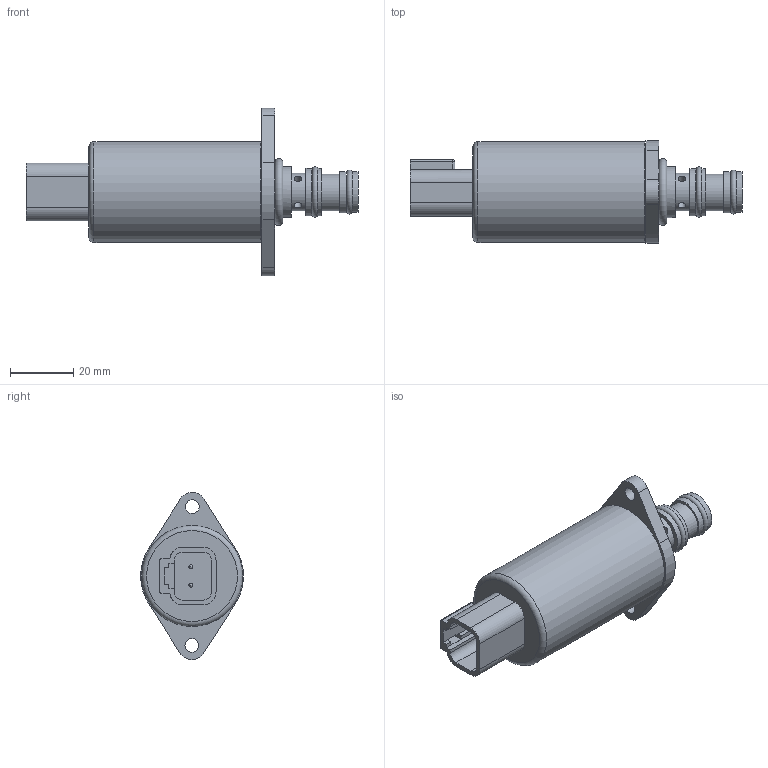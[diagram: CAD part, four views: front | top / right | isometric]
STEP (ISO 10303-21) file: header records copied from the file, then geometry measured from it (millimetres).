
FILE_DESCRIPTION(/* description */ (''),/* implementation_level */ '2;1');
FILE_NAME(/* name */ 'R:\Solids\Valve Solids exterior\Solids (.STEP)\EN063-PRR.stp',/* time_stamp */ '2022-12-21T14:19:32-06:00',/* author */ ('Michael'),/* organization */ (''),/* preprocessor_version */ 'ST-DEVELOPER v17.2',/* originating_system */ 'Autodesk Inventor 2019',/* authorisation */ '');
FILE_SCHEMA (('AUTOMOTIVE_DESIGN { 1 0 10303 214 3 1 1 }'));
Length unit declared in the file: inch
Products named in the file (1): EN063-PRR
Bounding box: 105.36 x 32.63 x 53.05 mm (x, y, z)
Volume: 54602.5 mm3; surface area: 13851.6 mm2
Topology: 4 solids, 5 shells, 124 faces, 303 edges, 203 vertices
Faces by surface type: plane 66, cylinder 46, torus 7, sphere 4, cone 1
Full cylindrical faces by diameter (mm): 1.27 x2, 2.388 x8, 3.175 x1, 4.369 x2, 10.414 x2, 10.518 x1, 11.125 x1, 11.633 x1, 12.065 x1, 12.446 x2, 12.954 x1, 13.058 x1, 14.986 x2, 16.205 x2, 30.748 x1, 32.055 x1
Entity records: 4176 total; most frequent: CARTESIAN_POINT 917, DIRECTION 657, ORIENTED_EDGE 602, EDGE_CURVE 301, AXIS2_PLACEMENT_3D 247, VERTEX_POINT 203, LINE 163, VECTOR 163
